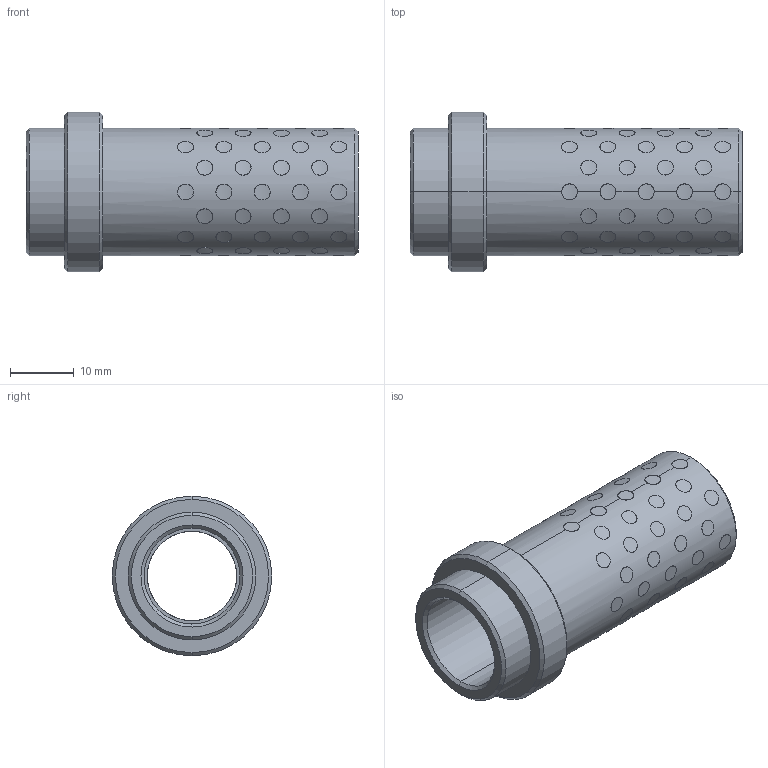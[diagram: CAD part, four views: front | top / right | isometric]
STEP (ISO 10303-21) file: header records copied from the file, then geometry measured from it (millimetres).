
FILE_DESCRIPTION((''),'2;1');
FILE_NAME('G31214046','2017-12-30T',('MANU'),(''),'PRO/ENGINEER BY PARAMETRIC TECHNOLOGY CORPORATION, 2012130','PRO/ENGINEER BY PARAMETRIC TECHNOLOGY CORPORATION, 2012130','');
FILE_SCHEMA(('CONFIG_CONTROL_DESIGN'));
Length unit declared in the file: millimetre
Products named in the file (1): G31214046
Bounding box: 52 x 25 x 25 mm (x, y, z)
Volume: 8831.5 mm3; surface area: 9674.7 mm2
Topology: 73 solids, 73 shells, 459 faces, 978 edges, 648 vertices
Faces by surface type: cylinder 442, cone 12, plane 5
Entity records: 20610 total; most frequent: CARTESIAN_POINT 11633, ORIENTED_EDGE 1956, DIRECTION 1312, EDGE_CURVE 978, VERTEX_POINT 648, B_SPLINE_CURVE_WITH_KNOTS 616, EDGE_LOOP 588, AXIS2_PLACEMENT_3D 491
